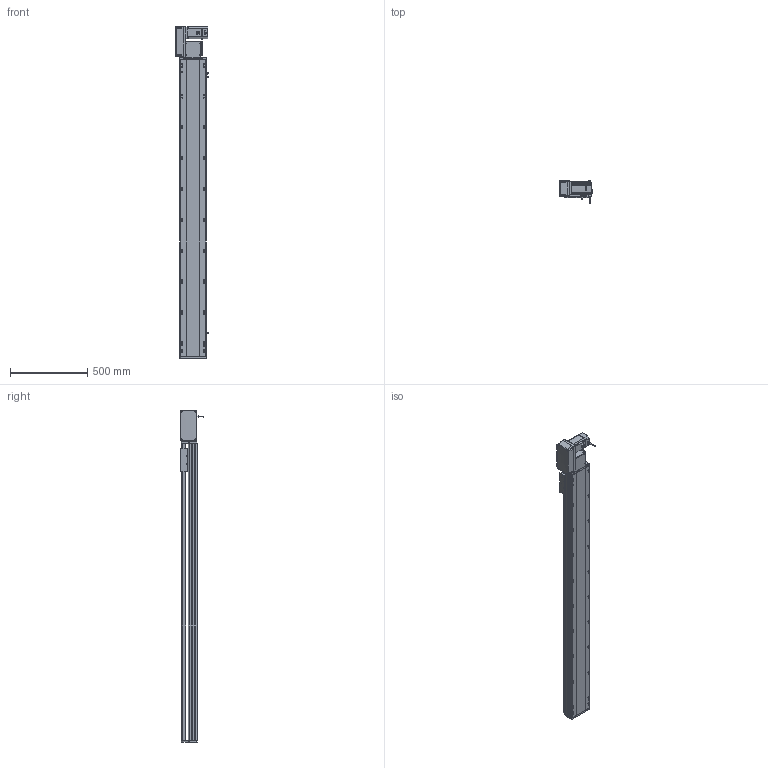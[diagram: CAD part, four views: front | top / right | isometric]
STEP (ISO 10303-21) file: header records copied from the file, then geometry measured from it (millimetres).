
FILE_DESCRIPTION (( 'STEP AP214' ), '1' );
FILE_NAME ('RTB17S-XX-1650-L-M75-C4.STEP', '2025-12-12T00:16:46', ( '' ), ( '' ), 'SwSTEP 2.0', 'SolidWorks 2018', '' );
FILE_SCHEMA (( 'AUTOMOTIVE_DESIGN' ));
Length unit declared in the file: millimetre
Products named in the file (15): EE672^RTB17S-XX-XX-L-M75-C4; RTB17S-L-004-賑釱^RTB17S-賑釱_RTB17S-XX-XX-L-M75-C4; RTB22S-GY-018P^RTB17S-L-々湍釱蚾饜-750W_RTB17S-XX-XX-L-M75-C4; RTB17S-賑釱^RTB17S-XX-XX-L-M75-C4; RTH13-BL-012覜茼え俋离^RTB17S-賑釱_RTB17S-XX-XX-L-M75-C4; RTB22S-GY-005P^RTB17S-L-々湍釱蚾饜-750W_RTB17S-XX-XX-L-M75-C4; RTB17-R-011菁釱^RTB17S-XX-XX-L-M75-C4; RTB17S-XX-1650-L-M75-C4; 750W萇儂^RTB17S-XX-XX-L-M75-C4; RTB22S-GY-008-M75--萇儂啣^RTB17S-L-々湍釱蚾饜-750W_RTB17S-XX-XX-L-M75-C4; RTB17S-L-007奻裔^RTB17S-XX-XX-L-M75-C4; RTB17S-L-001-耜醱啣^RTB17S-XX-XX-L-M75-C4; RTB22S-GY-017P^RTB17S-L-々湍釱蚾饜-750W_RTB17S-XX-XX-L-M75-C4; RTB17S-L-々湍釱蚾饜-750W^RTB17S-XX-XX-L-M75-C4; RMP17S-L-014-T20-P75--々湍釱^RTB17S-L-々湍釱蚾饜-750W_RTB17S-XX-XX-L-M75-C4
Assembly tree (17 placements, depth 3):
  RTB17S-XX-1650-L-M75-C4
    RTB17-R-011菁釱^RTB17S-XX-XX-L-M75-C4
    EE672^RTB17S-XX-XX-L-M75-C4  x3
    RTB17S-L-001-耜醱啣^RTB17S-XX-XX-L-M75-C4
    RTB17S-賑釱^RTB17S-XX-XX-L-M75-C4
      RTB17S-L-004-賑釱^RTB17S-賑釱_RTB17S-XX-XX-L-M75-C4
      RTH13-BL-012覜茼え俋离^RTB17S-賑釱_RTB17S-XX-XX-L-M75-C4
    RTB17S-L-007奻裔^RTB17S-XX-XX-L-M75-C4
    750W萇儂^RTB17S-XX-XX-L-M75-C4
    RTB17S-L-々湍釱蚾饜-750W^RTB17S-XX-XX-L-M75-C4
      RMP17S-L-014-T20-P75--々湍釱^RTB17S-L-々湍釱蚾饜-750W_RTB17S-XX-XX-L-M75-C4
      RTB22S-GY-005P^RTB17S-L-々湍釱蚾饜-750W_RTB17S-XX-XX-L-M75-C4
      RTB22S-GY-017P^RTB17S-L-々湍釱蚾饜-750W_RTB17S-XX-XX-L-M75-C4  x2
      RTB22S-GY-008-M75--萇儂啣^RTB17S-L-々湍釱蚾饜-750W_RTB17S-XX-XX-L-M75-C4
      RTB22S-GY-018P^RTB17S-L-々湍釱蚾饜-750W_RTB17S-XX-XX-L-M75-C4
Bounding box: 210.4 x 152.7 x 2149 mm (x, y, z)
Volume: 16259150.1 mm3; surface area: 2871131.7 mm2
Topology: 17 solids, 17 shells, 2153 faces, 5998 edges, 3878 vertices
Faces by surface type: plane 978, cylinder 759, bspline 294, cone 110, sphere 8, torus 4
Entity records: 61174 total; most frequent: CARTESIAN_POINT 18062, ORIENTED_EDGE 8840, DIRECTION 8222, EDGE_CURVE 4420, AXIS2_PLACEMENT_3D 2898, VERTEX_POINT 2882, VECTOR 2426, LINE 2426
